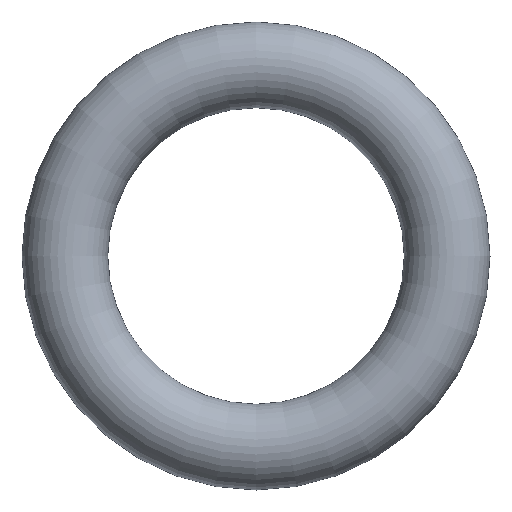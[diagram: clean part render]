
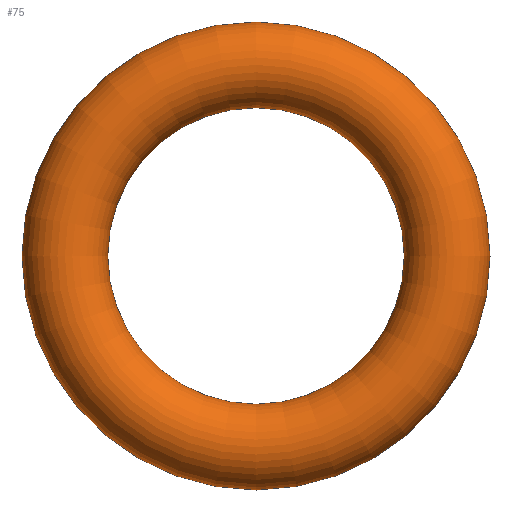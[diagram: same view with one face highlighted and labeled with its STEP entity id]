
A CAD part, front view. The second image highlights one B-rep face of the part: STEP entity #75.
In plain terms, the highlighted toroidal (fillet/blend) face has major radius 5.35 mm and minor radius 1.2 mm.
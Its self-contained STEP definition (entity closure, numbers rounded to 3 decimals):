
#75 = ADVANCED_FACE( '', ( #77 ), #78, .T. );
#77 = FACE_BOUND( '', #79, .T. );
#78 = TOROIDAL_SURFACE( '', #80, 5.35, 1.2 );
#79 = VERTEX_LOOP( '', #81 );
#80 = AXIS2_PLACEMENT_3D( '', #82, #83, #84 );
#81 = VERTEX_POINT( '', #85 );
#82 = CARTESIAN_POINT( '', ( 0., 0., 0. ) );
#83 = DIRECTION( '', ( 0., -1., 0. ) );
#84 = DIRECTION( '', ( 0., 0., -1. ) );
#85 = CARTESIAN_POINT( '', ( 0., 0., -6.55 ) );
